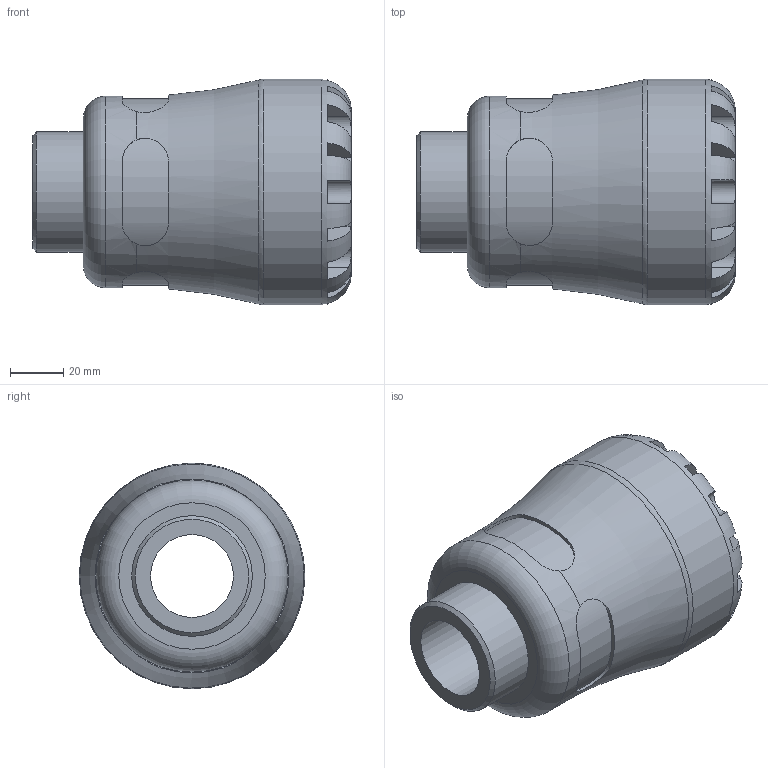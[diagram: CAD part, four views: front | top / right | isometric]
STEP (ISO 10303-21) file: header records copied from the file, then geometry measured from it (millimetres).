
FILE_DESCRIPTION(/* description */ ('PLASSON MALE INTEGRAL BRASS THREAD 50X1.1/2" SERIES 1'),/* implementation_level */ '2;1');
FILE_NAME(/* name */ 'C:\Dropbox\KIMPROJECTS-Inventor\99-16-3568-Processing\1072\107200050015_197200050015.ipt.stp',/* time_stamp */ '2017-01-22T10:49:09+02:00',/* author */ ('KIM'),/* organization */ (''),/* preprocessor_version */ 'ST-DEVELOPER v15.6',/* originating_system */ 'Autodesk Inventor 2015',/* authorisation */ '');
FILE_SCHEMA (('AUTOMOTIVE_DESIGN { 1 0 10303 214 3 1 1 }'));
Length unit declared in the file: millimetre
Products named in the file (1): 107200050015_197200050015
Bounding box: 120 x 85 x 85 mm (x, y, z)
Volume: 313424.5 mm3; surface area: 53055.4 mm2
Topology: 1 solids, 1 shells, 99 faces, 255 edges, 160 vertices
Faces by surface type: plane 60, cylinder 33, torus 4, cone 2
Full cylindrical faces by diameter (mm): 31.199 x1, 45.485 x1, 50 x1, 72.25 x1, 85 x1
Entity records: 3839 total; most frequent: CARTESIAN_POINT 1438, ORIENTED_EDGE 482, DIRECTION 458, EDGE_CURVE 241, AXIS2_PLACEMENT_3D 189, VERTEX_POINT 157, EDGE_LOOP 114, STYLED_ITEM 100
